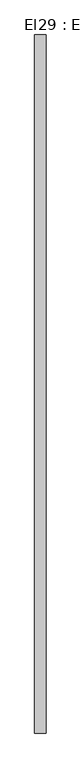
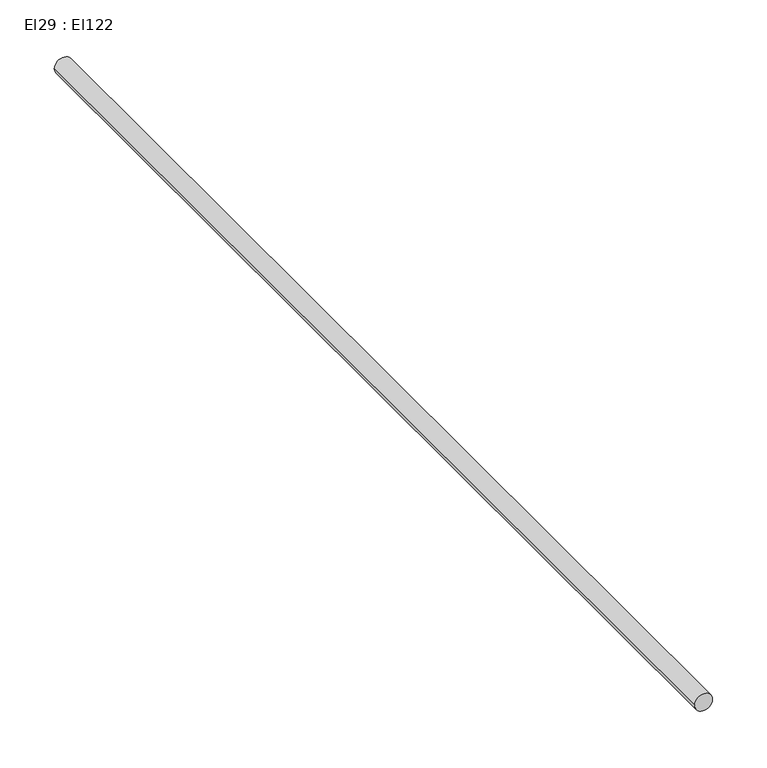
"""IFC4 building model written with IfcOpenShell, lengths in millimetres: cable carrier segment geometry, El29 : El122."""

from ifc_helpers import new_model, si_unit, point, frame, frame_2d, origin, place, context, project, spatial, circle_curve, trimmed, segment, composite_curve, outline, extrude, source, transform, mapped, element, save


def el29_el122_15501611(model_context):
    return source(origin(), model_context, "Body", "SweptSolid", [
        extrude(outline(composite_curve([segment(trimmed(circle_curve(frame_2d((1800.0, 27794.4746511)), 9.5), [point((1800.0, 27784.9746511))], [point((1800.0, 27803.9746511))], False, "CARTESIAN"), True, "CONTINUOUS"), segment(trimmed(circle_curve(frame_2d((1800.0, 27794.4746511)), 9.5), [point((1800.0, 27803.9746511))], [point((1800.0, 27784.9746511))], False, "CARTESIAN"), True, "CONTINUOUS")], self_intersect=False)), frame((0.0, 1007.6031745, 0.0), z_axis=(0.0, 1.0, 0.0), x_axis=(0.0, 0.0, 1.0)), (0.0, 0.0, 1.0), 1178.42),
    ])


if __name__ == "__main__":
    model = new_model("IFC4")
    model_context = context("Model", 3, world=origin())
    ifc_project = project(units=[si_unit("LENGTHUNIT", "METRE", prefix="MILLI")], contexts=[model_context])
    site = spatial("IfcSite", under=ifc_project)
    building = spatial("IfcBuilding", under=site)
    placement = place(None, origin())
    el29_el122_shape = el29_el122_15501611(model_context)
    element("IfcCableCarrierSegment", 1, ObjectType="El29 : El122", at=placement, inside=building, context=model_context, shape_type="MappedRepresentation", body=[
        mapped(el29_el122_shape, transform((0.0, 0.0, 0.0), x_axis=(1.0, 0.0, 0.0), y_axis=(0.0, 1.0, 0.0), z_axis=(0.0, 0.0, 1.0))),
    ])
    save(model, "model.ifc")
